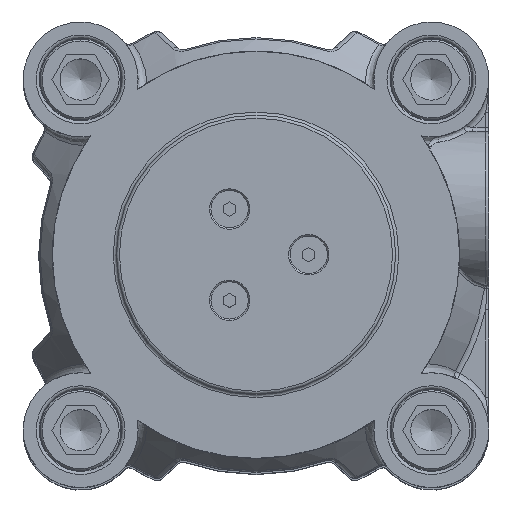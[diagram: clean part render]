
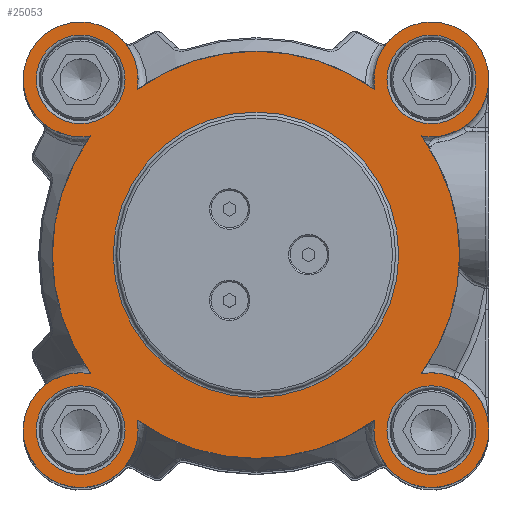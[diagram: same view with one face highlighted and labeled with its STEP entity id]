
A CAD part, top view. The second image highlights one B-rep face of the part: STEP entity #25053.
In plain terms, the highlighted planar face has unit normal (0, 0, 1) as drawn and (0, 0, -1) by its records, which use the part's own axes.
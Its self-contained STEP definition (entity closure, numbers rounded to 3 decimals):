
#3362=PLANE('',#26614);
#6097=ORIENTED_EDGE('',*,*,#10431,.F.);
#6098=ORIENTED_EDGE('',*,*,#10432,.F.);
#6099=ORIENTED_EDGE('',*,*,#10433,.F.);
#6100=ORIENTED_EDGE('',*,*,#10434,.F.);
#6101=ORIENTED_EDGE('',*,*,#10435,.F.);
#6102=ORIENTED_EDGE('',*,*,#10436,.F.);
#6103=ORIENTED_EDGE('',*,*,#10393,.T.);
#6104=ORIENTED_EDGE('',*,*,#10437,.F.);
#6105=ORIENTED_EDGE('',*,*,#10371,.T.);
#6106=ORIENTED_EDGE('',*,*,#10438,.F.);
#6107=ORIENTED_EDGE('',*,*,#10373,.T.);
#6108=ORIENTED_EDGE('',*,*,#10424,.F.);
#6109=ORIENTED_EDGE('',*,*,#10379,.T.);
#6110=ORIENTED_EDGE('',*,*,#10439,.F.);
#10371=EDGE_CURVE('',#12711,#12715,#14147,.T.);
#10373=EDGE_CURVE('',#12718,#12716,#14148,.T.);
#10379=EDGE_CURVE('',#12724,#12722,#14150,.T.);
#10393=EDGE_CURVE('',#12733,#12737,#14154,.T.);
#10424=EDGE_CURVE('',#12724,#12716,#14160,.T.);
#10431=EDGE_CURVE('',#12764,#12764,#14163,.T.);
#10432=EDGE_CURVE('',#12765,#12765,#14164,.T.);
#10433=EDGE_CURVE('',#12766,#12767,#14165,.T.);
#10434=EDGE_CURVE('',#12767,#12766,#14166,.T.);
#10435=EDGE_CURVE('',#12768,#12768,#14167,.T.);
#10436=EDGE_CURVE('',#12769,#12769,#14168,.T.);
#10437=EDGE_CURVE('',#12711,#12737,#14169,.T.);
#10438=EDGE_CURVE('',#12718,#12715,#14170,.T.);
#10439=EDGE_CURVE('',#12733,#12722,#14171,.T.);
#12711=VERTEX_POINT('',#38387);
#12715=VERTEX_POINT('',#38424);
#12716=VERTEX_POINT('',#38428);
#12718=VERTEX_POINT('',#38431);
#12722=VERTEX_POINT('',#38470);
#12724=VERTEX_POINT('',#38473);
#12733=VERTEX_POINT('',#38528);
#12737=VERTEX_POINT('',#38565);
#12764=VERTEX_POINT('',#38964);
#12765=VERTEX_POINT('',#38966);
#12766=VERTEX_POINT('',#38968);
#12767=VERTEX_POINT('',#38969);
#12768=VERTEX_POINT('',#38972);
#12769=VERTEX_POINT('',#38974);
#14147=CIRCLE('',#26589,32.8);
#14148=CIRCLE('',#26591,32.8);
#14150=CIRCLE('',#26594,32.8);
#14154=CIRCLE('',#26599,32.8);
#14160=CIRCLE('',#26611,9.25);
#14163=CIRCLE('',#26615,7.15);
#14164=CIRCLE('',#26616,7.15);
#14165=CIRCLE('',#26617,23.);
#14166=CIRCLE('',#26618,23.);
#14167=CIRCLE('',#26619,7.15);
#14168=CIRCLE('',#26620,7.15);
#14169=CIRCLE('',#26621,9.25);
#14170=CIRCLE('',#26622,9.25);
#14171=CIRCLE('',#26623,9.25);
#15274=EDGE_LOOP('',(#6097));
#15275=EDGE_LOOP('',(#6098));
#15276=EDGE_LOOP('',(#6099,#6100));
#15277=EDGE_LOOP('',(#6101));
#15278=EDGE_LOOP('',(#6102));
#15279=EDGE_LOOP('',(#6103,#6104,#6105,#6106,#6107,#6108,#6109,#6110));
#16576=FACE_BOUND('',#15274,.T.);
#16577=FACE_BOUND('',#15275,.T.);
#16578=FACE_BOUND('',#15276,.T.);
#16579=FACE_BOUND('',#15277,.T.);
#16580=FACE_BOUND('',#15278,.T.);
#16581=FACE_BOUND('',#15279,.T.);
#25053=ADVANCED_FACE('',(#16576,#16577,#16578,#16579,#16580,#16581),#3362,
 .T.);
#26589=AXIS2_PLACEMENT_3D('',#38425,#29833,#29834);
#26591=AXIS2_PLACEMENT_3D('',#38430,#29838,#29839);
#26594=AXIS2_PLACEMENT_3D('',#38472,#29846,#29847);
#26599=AXIS2_PLACEMENT_3D('',#38566,#29859,#29860);
#26611=AXIS2_PLACEMENT_3D('',#38917,#29884,#29885);
#26614=AXIS2_PLACEMENT_3D('',#38962,#29892,#29893);
#26615=AXIS2_PLACEMENT_3D('',#38963,#29894,#29895);
#26616=AXIS2_PLACEMENT_3D('',#38965,#29896,#29897);
#26617=AXIS2_PLACEMENT_3D('',#38967,#29898,#29899);
#26618=AXIS2_PLACEMENT_3D('',#38970,#29900,#29901);
#26619=AXIS2_PLACEMENT_3D('',#38971,#29902,#29903);
#26620=AXIS2_PLACEMENT_3D('',#38973,#29904,#29905);
#26621=AXIS2_PLACEMENT_3D('',#38975,#29906,#29907);
#26622=AXIS2_PLACEMENT_3D('',#38976,#29908,#29909);
#26623=AXIS2_PLACEMENT_3D('',#38977,#29910,#29911);
#29833=DIRECTION('',(0.,0.,-1.));
#29834=DIRECTION('',(1.,0.,0.));
#29838=DIRECTION('',(0.,0.,-1.));
#29839=DIRECTION('',(1.,0.,0.));
#29846=DIRECTION('',(0.,0.,-1.));
#29847=DIRECTION('',(1.,0.,0.));
#29859=DIRECTION('',(0.,0.,-1.));
#29860=DIRECTION('',(1.,0.,0.));
#29884=DIRECTION('',(0.,0.,1.));
#29885=DIRECTION('',(1.,0.,0.));
#29892=DIRECTION('',(0.,0.,-1.));
#29893=DIRECTION('',(1.,0.,0.));
#29894=DIRECTION('',(0.,0.,-1.));
#29895=DIRECTION('',(-1.,0.,0.));
#29896=DIRECTION('',(0.,0.,-1.));
#29897=DIRECTION('',(-1.,0.,0.));
#29898=DIRECTION('',(0.,0.,-1.));
#29899=DIRECTION('',(-1.,0.,0.));
#29900=DIRECTION('',(0.,0.,-1.));
#29901=DIRECTION('',(-1.,0.,0.));
#29902=DIRECTION('',(0.,0.,-1.));
#29903=DIRECTION('',(-1.,0.,0.));
#29904=DIRECTION('',(0.,0.,-1.));
#29905=DIRECTION('',(-1.,0.,0.));
#29906=DIRECTION('',(0.,0.,1.));
#29907=DIRECTION('',(1.,0.,0.));
#29908=DIRECTION('',(0.,0.,1.));
#29909=DIRECTION('',(1.,0.,0.));
#29910=DIRECTION('',(0.,0.,1.));
#29911=DIRECTION('',(1.,0.,0.));
#38387=CARTESIAN_POINT('',(-26.635,-19.142,-129.5));
#38424=CARTESIAN_POINT('',(-26.635,19.142,-129.5));
#38425=CARTESIAN_POINT('',(0.,0.,
-129.5));
#38428=CARTESIAN_POINT('',(19.142,26.635,-129.5));
#38430=CARTESIAN_POINT('',(0.,0.,
-129.5));
#38431=CARTESIAN_POINT('',(-19.142,26.635,-129.5));
#38470=CARTESIAN_POINT('',(26.635,-19.142,-129.5));
#38472=CARTESIAN_POINT('',(0.,0.,
-129.5));
#38473=CARTESIAN_POINT('',(26.635,19.142,-129.5));
#38528=CARTESIAN_POINT('',(19.142,-26.635,-129.5));
#38565=CARTESIAN_POINT('',(-19.142,-26.635,-129.5));
#38566=CARTESIAN_POINT('',(0.,0.,
-129.5));
#38917=CARTESIAN_POINT('',(28.25,28.25,-129.5));
#38962=CARTESIAN_POINT('',(0.,0.,
-129.5));
#38963=CARTESIAN_POINT('',(28.25,-28.25,-129.5));
#38964=CARTESIAN_POINT('',(35.4,-28.25,-129.5));
#38965=CARTESIAN_POINT('',(28.25,28.25,-129.5));
#38966=CARTESIAN_POINT('',(35.4,28.25,-129.5));
#38967=CARTESIAN_POINT('',(0.,0.,
-129.5));
#38968=CARTESIAN_POINT('',(23.,0.,-129.5));
#38969=CARTESIAN_POINT('',(-23.,0.,-129.5));
#38970=CARTESIAN_POINT('',(0.,0.,
-129.5));
#38971=CARTESIAN_POINT('',(-28.25,28.25,-129.5));
#38972=CARTESIAN_POINT('',(-21.1,28.25,-129.5));
#38973=CARTESIAN_POINT('',(-28.25,-28.25,-129.5));
#38974=CARTESIAN_POINT('',(-21.1,-28.25,-129.5));
#38975=CARTESIAN_POINT('',(-28.25,-28.25,-129.5));
#38976=CARTESIAN_POINT('',(-28.25,28.25,-129.5));
#38977=CARTESIAN_POINT('',(28.25,-28.25,-129.5));
